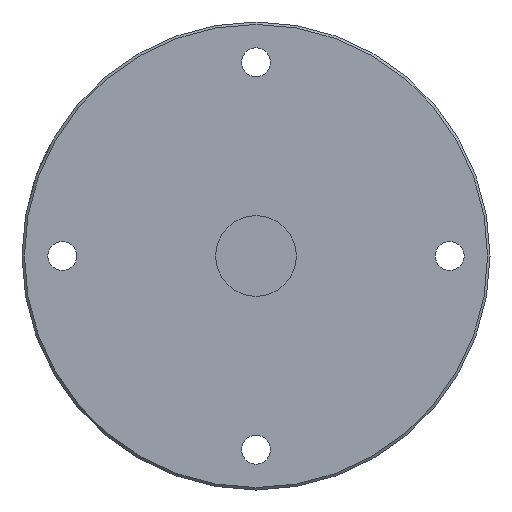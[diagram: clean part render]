
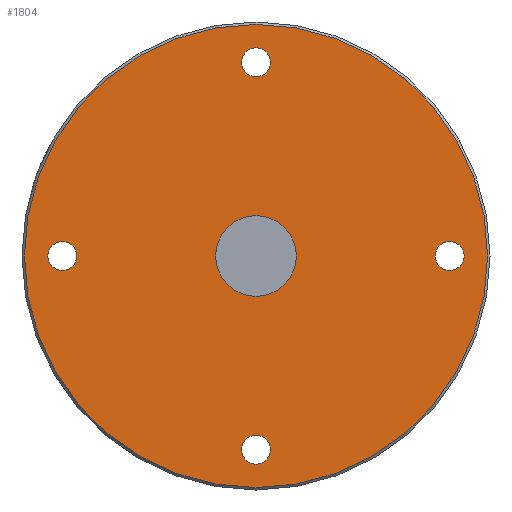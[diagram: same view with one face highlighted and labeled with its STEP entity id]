
A CAD part, front view. The second image highlights one B-rep face of the part: STEP entity #1804.
In plain terms, the highlighted planar face has unit normal (0, -1, 0).
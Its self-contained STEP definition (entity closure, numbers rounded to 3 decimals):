
#169=FACE_BOUND('',#420,.T.);
#170=FACE_BOUND('',#421,.T.);
#171=FACE_BOUND('',#422,.T.);
#172=FACE_BOUND('',#423,.T.);
#173=FACE_BOUND('',#424,.T.);
#206=PLANE('',#2085);
#287=FACE_OUTER_BOUND('',#419,.T.);
#419=EDGE_LOOP('',(#1358));
#420=EDGE_LOOP('',(#1359));
#421=EDGE_LOOP('',(#1360));
#422=EDGE_LOOP('',(#1361));
#423=EDGE_LOOP('',(#1362));
#424=EDGE_LOOP('',(#1363));
#738=CIRCLE('',#2069,9.);
#740=CIRCLE('',#2072,9.);
#742=CIRCLE('',#2075,9.);
#744=CIRCLE('',#2078,9.);
#747=CIRCLE('',#2084,25.);
#748=CIRCLE('',#2086,143.5);
#867=VERTEX_POINT('',#3052);
#869=VERTEX_POINT('',#3058);
#871=VERTEX_POINT('',#3064);
#873=VERTEX_POINT('',#3070);
#876=VERTEX_POINT('',#3080);
#877=VERTEX_POINT('',#3084);
#1044=EDGE_CURVE('',#867,#867,#738,.T.);
#1047=EDGE_CURVE('',#869,#869,#740,.T.);
#1050=EDGE_CURVE('',#871,#871,#742,.T.);
#1053=EDGE_CURVE('',#873,#873,#744,.T.);
#1057=EDGE_CURVE('',#876,#876,#747,.T.);
#1058=EDGE_CURVE('',#877,#877,#748,.T.);
#1358=ORIENTED_EDGE('',*,*,#1058,.F.);
#1359=ORIENTED_EDGE('',*,*,#1044,.T.);
#1360=ORIENTED_EDGE('',*,*,#1047,.T.);
#1361=ORIENTED_EDGE('',*,*,#1050,.T.);
#1362=ORIENTED_EDGE('',*,*,#1053,.T.);
#1363=ORIENTED_EDGE('',*,*,#1057,.T.);
#1804=ADVANCED_FACE('',(#287,#169,#170,#171,#172,#173),#206,.T.);
#2069=AXIS2_PLACEMENT_3D('',#3054,#2421,#2422);
#2072=AXIS2_PLACEMENT_3D('',#3060,#2428,#2429);
#2075=AXIS2_PLACEMENT_3D('',#3066,#2435,#2436);
#2078=AXIS2_PLACEMENT_3D('',#3072,#2442,#2443);
#2084=AXIS2_PLACEMENT_3D('',#3082,#2455,#2456);
#2085=AXIS2_PLACEMENT_3D('',#3083,#2457,#2458);
#2086=AXIS2_PLACEMENT_3D('',#3085,#2459,#2460);
#2421=DIRECTION('center_axis',(0.,1.,0.));
#2422=DIRECTION('ref_axis',(1.,0.,0.));
#2428=DIRECTION('center_axis',(0.,1.,0.));
#2429=DIRECTION('ref_axis',(1.,0.,0.));
#2435=DIRECTION('center_axis',(0.,1.,0.));
#2436=DIRECTION('ref_axis',(1.,0.,0.));
#2442=DIRECTION('center_axis',(0.,1.,0.));
#2443=DIRECTION('ref_axis',(1.,0.,0.));
#2455=DIRECTION('center_axis',(0.,1.,0.));
#2456=DIRECTION('ref_axis',(1.,0.,0.));
#2457=DIRECTION('center_axis',(0.,-1.,0.));
#2458=DIRECTION('ref_axis',(0.,0.,-1.));
#2459=DIRECTION('center_axis',(0.,1.,0.));
#2460=DIRECTION('ref_axis',(1.,0.,0.));
#3052=CARTESIAN_POINT('',(-9.,0.,120.));
#3054=CARTESIAN_POINT('Origin',(0.,0.,
120.));
#3058=CARTESIAN_POINT('',(-9.,0.,-120.));
#3060=CARTESIAN_POINT('Origin',(0.,0.,-120.));
#3064=CARTESIAN_POINT('',(-129.,0.,0.));
#3066=CARTESIAN_POINT('Origin',(-120.,0.,0.));
#3070=CARTESIAN_POINT('',(111.,0.,0.));
#3072=CARTESIAN_POINT('Origin',(120.,0.,0.));
#3080=CARTESIAN_POINT('',(25.,0.,0.));
#3082=CARTESIAN_POINT('Origin',(0.,0.,0.));
#3083=CARTESIAN_POINT('Origin',(-143.5,0.,0.));
#3084=CARTESIAN_POINT('',(143.5,0.,0.));
#3085=CARTESIAN_POINT('Origin',(0.,0.,0.));
